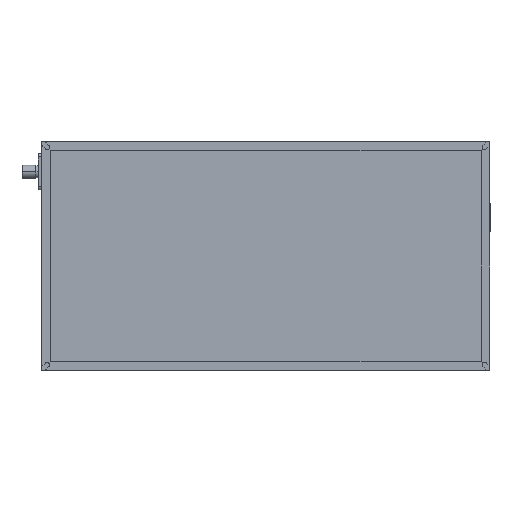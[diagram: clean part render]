
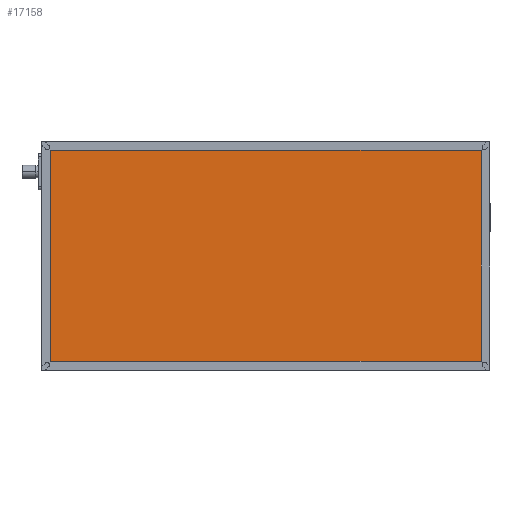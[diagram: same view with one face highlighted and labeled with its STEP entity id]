
A CAD part, top view. The second image highlights one B-rep face of the part: STEP entity #17158.
In plain terms, the highlighted planar face has unit normal (0, 0, 1).
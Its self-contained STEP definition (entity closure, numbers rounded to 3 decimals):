
#1677 = PLANE ( 'NONE',  #12902 ) ;
#1866 = EDGE_CURVE ( 'NONE', #5825, #15894, #10634, .T. ) ;
#2657 = CARTESIAN_POINT ( 'NONE',  ( 396., 4., 41.85 ) ) ;
#2939 = EDGE_LOOP ( 'NONE', ( #4180, #9786, #13214, #7136 ) ) ;
#3822 = EDGE_CURVE ( 'NONE', #15894, #14451, #12514, .T. ) ;
#4180 = ORIENTED_EDGE ( 'NONE', *, *, #3822, .T. ) ;
#4220 = DIRECTION ( 'NONE',  ( 0., -1., 0. ) ) ;
#4291 = EDGE_CURVE ( 'NONE', #14451, #12187, #16792, .T. ) ;
#5227 = DIRECTION ( 'NONE',  ( 1., 0., 0. ) ) ;
#5320 = CARTESIAN_POINT ( 'NONE',  ( 0., 4., 41.85 ) ) ;
#5533 = LINE ( 'NONE', #6962, #17483 ) ;
#5726 = CARTESIAN_POINT ( 'NONE',  ( 0., 0., 41.85 ) ) ;
#5825 = VERTEX_POINT ( 'NONE', #7816 ) ;
#6962 = CARTESIAN_POINT ( 'NONE',  ( 4., 0., 41.85 ) ) ;
#7136 = ORIENTED_EDGE ( 'NONE', *, *, #1866, .T. ) ;
#7466 = DIRECTION ( 'NONE',  ( 0., 1., 0. ) ) ;
#7816 = CARTESIAN_POINT ( 'NONE',  ( 4., 4., 41.85 ) ) ;
#8814 = VECTOR ( 'NONE', #5227, 1000. ) ;
#9786 = ORIENTED_EDGE ( 'NONE', *, *, #4291, .T. ) ;
#10249 = VECTOR ( 'NONE', #12715, 1000. ) ;
#10634 = LINE ( 'NONE', #5320, #8814 ) ;
#11135 = DIRECTION ( 'NONE',  ( -1., 0., 0. ) ) ;
#12017 = EDGE_CURVE ( 'NONE', #12187, #5825, #5533, .T. ) ;
#12187 = VERTEX_POINT ( 'NONE', #15068 ) ;
#12457 = DIRECTION ( 'NONE',  ( 0., 0., -1. ) ) ;
#12503 = CARTESIAN_POINT ( 'NONE',  ( 396., 196., 41.85 ) ) ;
#12514 = LINE ( 'NONE', #14106, #13087 ) ;
#12535 = CARTESIAN_POINT ( 'NONE',  ( 0., 196., 41.85 ) ) ;
#12715 = DIRECTION ( 'NONE',  ( -1., 0., 0. ) ) ;
#12902 = AXIS2_PLACEMENT_3D ( 'NONE', #5726, #12457, #11135 ) ;
#13087 = VECTOR ( 'NONE', #7466, 1000. ) ;
#13214 = ORIENTED_EDGE ( 'NONE', *, *, #12017, .T. ) ;
#13772 = FACE_OUTER_BOUND ( 'NONE', #2939, .T. ) ;
#14106 = CARTESIAN_POINT ( 'NONE',  ( 396., 0., 41.85 ) ) ;
#14451 = VERTEX_POINT ( 'NONE', #12503 ) ;
#15068 = CARTESIAN_POINT ( 'NONE',  ( 4., 196., 41.85 ) ) ;
#15894 = VERTEX_POINT ( 'NONE', #2657 ) ;
#16792 = LINE ( 'NONE', #12535, #10249 ) ;
#17158 = ADVANCED_FACE ( 'NONE', ( #13772 ), #1677, .F. ) ;
#17483 = VECTOR ( 'NONE', #4220, 1000. ) ;
